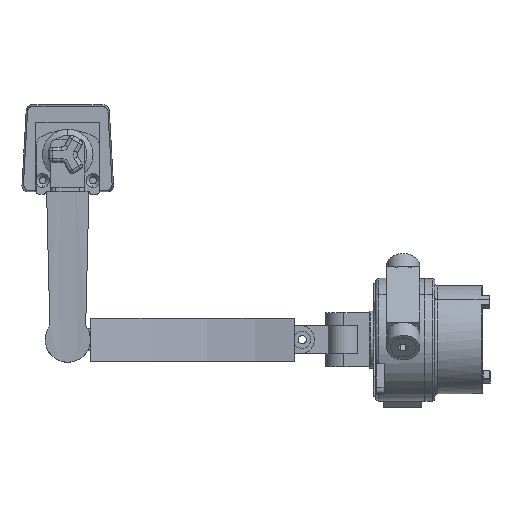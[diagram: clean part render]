
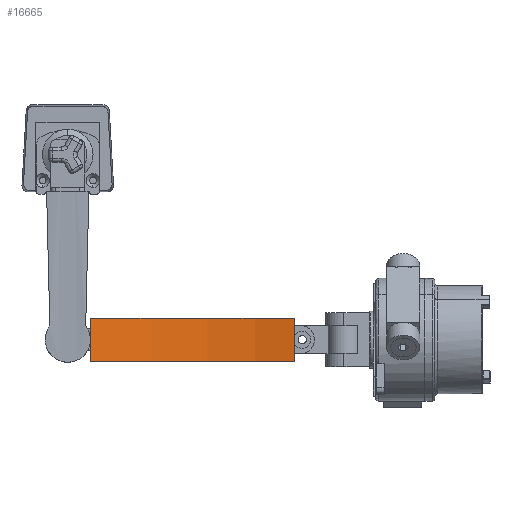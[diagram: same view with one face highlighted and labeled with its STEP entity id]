
A CAD part, front view. The second image highlights one B-rep face of the part: STEP entity #16665.
In plain terms, the highlighted cylindrical face has radius 509.363 mm (diameter 1018.73 mm), a partial arc.
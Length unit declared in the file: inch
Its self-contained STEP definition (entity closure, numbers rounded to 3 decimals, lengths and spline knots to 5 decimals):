
#167 = DIRECTION ( 'NONE',  ( 0., 0., -1. ) ) ;
#865 = CIRCLE ( 'NONE', #16378, 20.05364 ) ;
#1122 = ORIENTED_EDGE ( 'NONE', *, *, #1885, .T. ) ;
#1170 = VECTOR ( 'NONE', #167, 39.37008 ) ;
#1615 = LINE ( 'NONE', #11315, #1170 ) ;
#1885 = EDGE_CURVE ( 'NONE', #15248, #9333, #6851, .T. ) ;
#3618 = DIRECTION ( 'NONE',  ( 0., 0., -1. ) ) ;
#4215 = AXIS2_PLACEMENT_3D ( 'NONE', #12149, #6583, #14945 ) ;
#4908 = CIRCLE ( 'NONE', #11767, 20.05364 ) ;
#5204 = CARTESIAN_POINT ( 'NONE',  ( -8.70828, 30.97623, -8.345 ) ) ;
#5682 = VERTEX_POINT ( 'NONE', #14263 ) ;
#6583 = DIRECTION ( 'NONE',  ( 0., 0., -1. ) ) ;
#6620 = DIRECTION ( 'NONE',  ( -1., 0., 0. ) ) ;
#6851 = LINE ( 'NONE', #17422, #13833 ) ;
#7454 = CYLINDRICAL_SURFACE ( 'NONE', #4215, 20.05364 ) ;
#8312 = FACE_OUTER_BOUND ( 'NONE', #10952, .T. ) ;
#8521 = EDGE_CURVE ( 'NONE', #5682, #17051, #1615, .T. ) ;
#9309 = CARTESIAN_POINT ( 'NONE',  ( 8.89694, 21.37391, -8.345 ) ) ;
#9333 = VERTEX_POINT ( 'NONE', #11909 ) ;
#9788 = CARTESIAN_POINT ( 'NONE',  ( 0.89403, 13.371, -6.655 ) ) ;
#10824 = EDGE_CURVE ( 'NONE', #5682, #15248, #865, .T. ) ;
#10952 = EDGE_LOOP ( 'NONE', ( #17757, #14557, #1122, #11813 ) ) ;
#11315 = CARTESIAN_POINT ( 'NONE',  ( 8.89694, 21.37391, -6.655 ) ) ;
#11767 = AXIS2_PLACEMENT_3D ( 'NONE', #5204, #14987, #6620 ) ;
#11813 = ORIENTED_EDGE ( 'NONE', *, *, #14376, .T. ) ;
#11909 = CARTESIAN_POINT ( 'NONE',  ( 0.89403, 13.371, -8.345 ) ) ;
#11996 = CARTESIAN_POINT ( 'NONE',  ( -8.70828, 30.97623, -6.655 ) ) ;
#12149 = CARTESIAN_POINT ( 'NONE',  ( -8.70828, 30.97623, 4.66283 ) ) ;
#13385 = DIRECTION ( 'NONE',  ( -1., 0., 0. ) ) ;
#13544 = DIRECTION ( 'NONE',  ( 0., 0., -1. ) ) ;
#13833 = VECTOR ( 'NONE', #13544, 39.37008 ) ;
#14263 = CARTESIAN_POINT ( 'NONE',  ( 8.89694, 21.37391, -6.655 ) ) ;
#14376 = EDGE_CURVE ( 'NONE', #9333, #17051, #4908, .T. ) ;
#14557 = ORIENTED_EDGE ( 'NONE', *, *, #10824, .T. ) ;
#14945 = DIRECTION ( 'NONE',  ( -1., 0., 0. ) ) ;
#14987 = DIRECTION ( 'NONE',  ( 0., 0., 1. ) ) ;
#15248 = VERTEX_POINT ( 'NONE', #9788 ) ;
#16378 = AXIS2_PLACEMENT_3D ( 'NONE', #11996, #3618, #13385 ) ;
#16665 = ADVANCED_FACE ( 'NONE', ( #8312 ), #7454, .T. ) ;
#17051 = VERTEX_POINT ( 'NONE', #9309 ) ;
#17422 = CARTESIAN_POINT ( 'NONE',  ( 0.89403, 13.371, -6.655 ) ) ;
#17757 = ORIENTED_EDGE ( 'NONE', *, *, #8521, .F. ) ;
